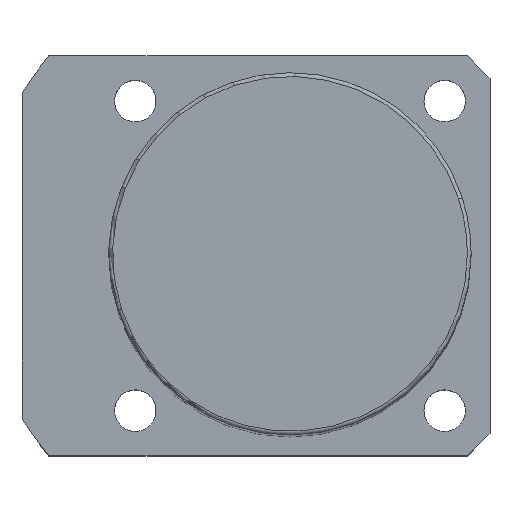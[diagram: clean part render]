
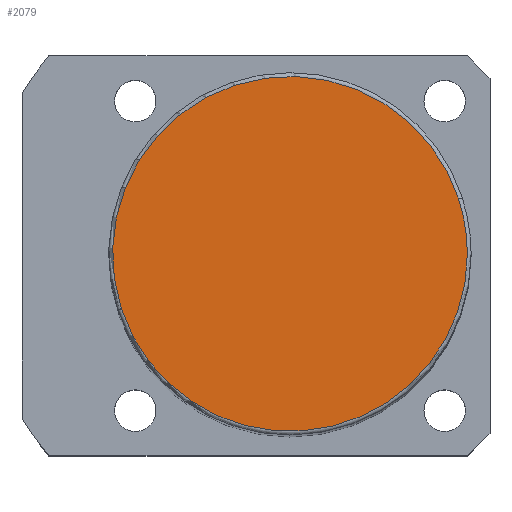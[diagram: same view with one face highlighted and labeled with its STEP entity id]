
A CAD part, top view. The second image highlights one B-rep face of the part: STEP entity #2079.
In plain terms, the highlighted planar face has unit normal (0, 0, 1).
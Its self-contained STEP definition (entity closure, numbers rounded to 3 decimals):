
#2045=CARTESIAN_POINT('',(23.5,0.0,164.0));
#2046=VERTEX_POINT('',#2045);
#2047=CARTESIAN_POINT('',(22.35,7.262,164.0));
#2048=VERTEX_POINT('',#2047);
#2049=CARTESIAN_POINT('',(0.0,0.0,164.0));
#2050=DIRECTION('',(0.0,0.0,1.0));
#2051=DIRECTION('',(1.0,0.0,0.0));
#2052=AXIS2_PLACEMENT_3D('',#2049,#2050,#2051);
#2053=CIRCLE('',#2052,23.5);
#2054=EDGE_CURVE('no 2100',#2046,#2048,#2053,.T.);
#2055=ORIENTED_EDGE('',*,*,#2054,.T.);
#2056=CARTESIAN_POINT('',(-22.35,-7.262,164.0));
#2057=VERTEX_POINT('',#2056);
#2058=CARTESIAN_POINT('',(0.0,0.0,164.0));
#2059=DIRECTION('',(0.0,0.0,1.0));
#2060=DIRECTION('',(1.0,0.0,0.0));
#2061=AXIS2_PLACEMENT_3D('',#2058,#2059,#2060);
#2062=CIRCLE('',#2061,23.5);
#2063=EDGE_CURVE('no 2106',#2048,#2057,#2062,.T.);
#2064=ORIENTED_EDGE('',*,*,#2063,.T.);
#2065=CARTESIAN_POINT('',(0.0,0.0,164.0));
#2066=DIRECTION('',(0.0,0.0,1.0));
#2067=DIRECTION('',(1.0,0.0,0.0));
#2068=AXIS2_PLACEMENT_3D('',#2065,#2066,#2067);
#2069=CIRCLE('',#2068,23.5);
#2070=EDGE_CURVE('no 2110',#2057,#2046,#2069,.T.);
#2071=ORIENTED_EDGE('',*,*,#2070,.T.);
#2072=EDGE_LOOP('',(#2055,#2064,#2071));
#2073=FACE_OUTER_BOUND('',#2072,.T.);
#2074=CARTESIAN_POINT('',(0.0,0.0,164.0));
#2075=DIRECTION('',(0.0,0.0,1.0));
#2076=DIRECTION('',(1.0,0.0,0.0));
#2077=AXIS2_PLACEMENT_3D('',#2074,#2075,#2076);
#2078=PLANE('',#2077);
#2079=ADVANCED_FACE('no 2091',(#2073),#2078,.T.);
